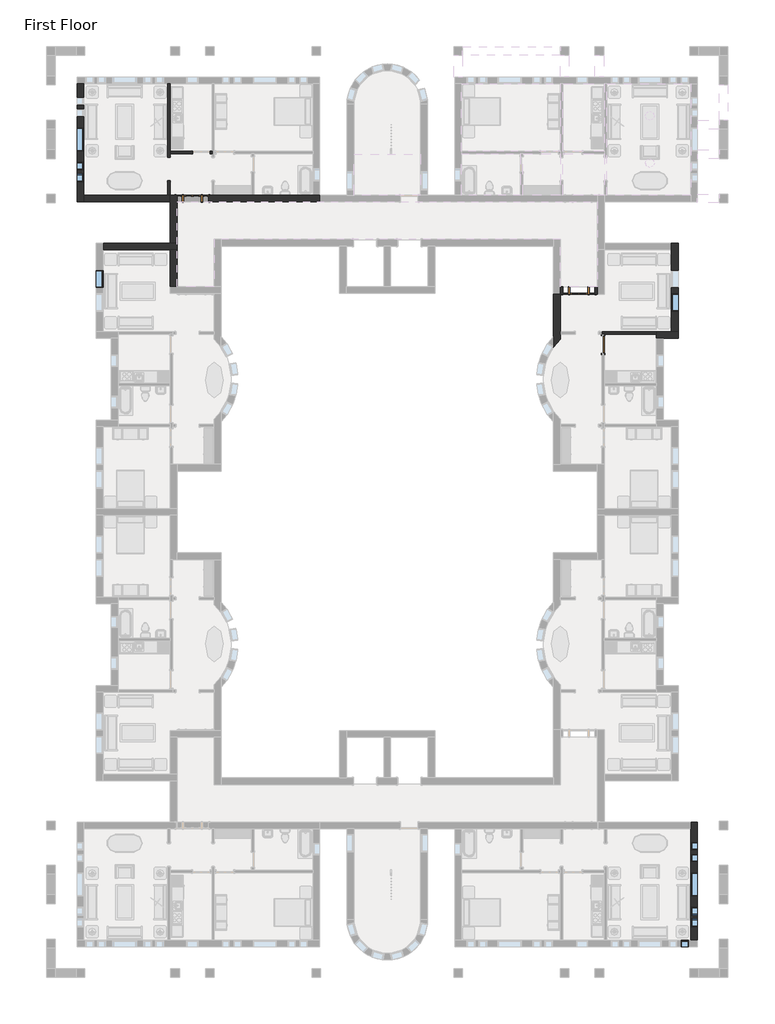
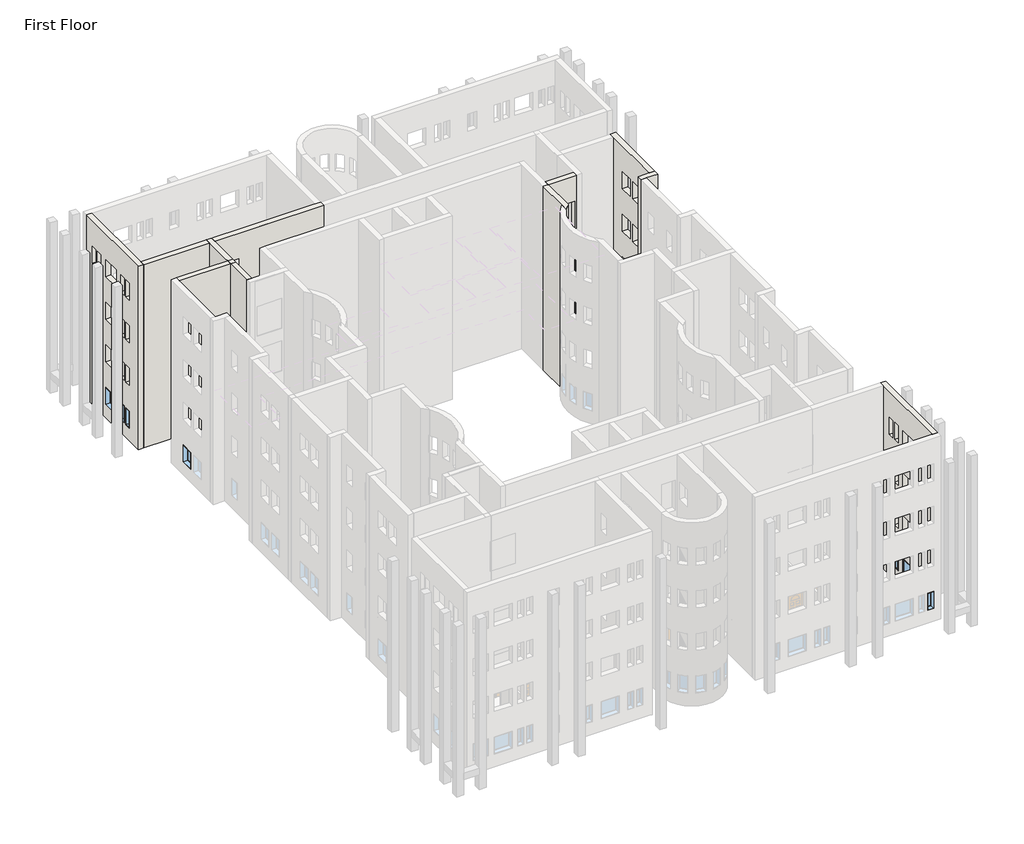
# One storey, part 12 of 21: 13 walls, 11 windows, 3 doors.
"""IFC4 building model written with IfcOpenShell, lengths in millimetres."""

from ifc_helpers import new_model, si_unit, frame, origin, origin_with_axes, place, context, project, spatial, polyline, circle_curve, outline, extrude, faceted_brep, transform, mapped, element, save
from ifc_brep_helpers import plane_surface, revolved_surface, advanced_brep
from components import door_a3eb833a, door_ffdb1193, window_da97879f, window_d61ef850, window_15c49d37, window_0e2fc6ce, window_d89bf842

model = new_model("IFC4")

# Units and contexts
model_context = context("Model", 3, world=origin())
ifc_project = project(units=[si_unit("LENGTHUNIT", "METRE", prefix="MILLI")], contexts=[model_context])

# Site, building, storey
site = spatial("IfcSite", under=ifc_project)
building = spatial("IfcBuilding", under=site)
storey = spatial("IfcBuildingStorey", under=building, Name="First Floor", Elevation=0.0)

# Doors
placement = place(None, origin())
door_shape = door_a3eb833a(model_context)
element("IfcDoor", 1, ObjectType="Single-Flush : 36\" x 84\"", at=placement, inside=storey, context=model_context, shape_type="MappedRepresentation", body=[
    mapped(door_shape, transform((-3900.4589563, -3198.3308133, 0.0), x_axis=(0.0, 1.0, 0.0), y_axis=(-1.0, 0.0, 0.0), z_axis=(0.0, 0.0, 1.0))),
])
door_2_shape = door_ffdb1193(model_context)
element("IfcDoor", 2, ObjectType="Single-Raised Panel with Sidelights : 36\" x 84\"", at=placement, inside=storey, context=model_context, shape_type="MappedRepresentation", body=[
    mapped(door_2_shape, transform((-5156.1714563, -415.4433133, 0.0), x_axis=(-1.0, 0.0, 0.0), y_axis=(0.0, -1.0, 0.0), z_axis=(0.0, 0.0, 1.0))),
])
element("IfcDoor", 3, ObjectType="Single-Raised Panel with Sidelights : 36\" x 84\"", at=placement, inside=storey, context=model_context, shape_type="MappedRepresentation", body=[
    mapped(door_2_shape, transform((-25131.6839563, 4350.2316867, 0.0), x_axis=(1.0, 0.0, 0.0), y_axis=(0.0, 1.0, 0.0), z_axis=(0.0, 0.0, 1.0))),
])

# Walls
element("IfcWall", 4, ObjectType="Exterior - Brick on Mtl. Stud", at=placement, inside=storey, context=model_context, shape_type="Brep", body=[
    faceted_brep([(-25934.9589563, -197.9558133, 0.0), (-25934.9589563, 4174.0191867, 0.0), (-25934.9589563, 4526.4441867, 0.0), (-25934.9589563, 4526.4441867, 13106.4), (-25934.9589563, 4174.0191867, 13106.4), (-25934.9589563, -197.9558133, 13106.4), (-26287.3839563, -197.9558133, 0.0), (-26287.3839563, -197.9558133, 13106.4), (-26287.3839563, 4526.4441867, 13106.4), (-26287.3839563, 4526.4441867, 0.0)], [[[0, 1, 2, 3, 4, 5]], [[6, 7, 8, 9]], [[2, 1, 0, 6, 9]], [[5, 4, 3, 8, 7]], [[3, 2, 9, 8]], [[0, 5, 7, 6]]]),
])
element("IfcWall", 5, ObjectType="Exterior - Brick on Mtl. Stud", at=placement, inside=storey, context=model_context, shape_type="SweptSolid", body=[
    extrude(outline(polyline([(0.0, -6122.9589563), (0.0, -5994.3714563), (2133.6, -5994.3714563), (2133.6, -4317.9714563), (0.0, -4317.9714563), (0.0, -4189.3839563), (13106.4, -4189.3839563), (13106.4, -6122.9589563), (0.0, -6122.9589563)]), holes=[polyline([(6096.0, -4317.9714563), (6096.0, -5994.3714563), (8229.6, -5994.3714563), (8229.6, -4317.9714563), (6096.0, -4317.9714563)]), polyline([(3048.0, -4317.9714563), (3048.0, -5994.3714563), (5181.6, -5994.3714563), (5181.6, -4317.9714563), (3048.0, -4317.9714563)]), polyline([(9144.0, -4317.9714563), (9144.0, -5994.3714563), (11277.6, -5994.3714563), (11277.6, -4317.9714563), (9144.0, -4317.9714563)])]), frame((0.0, -591.6558133, 0.0), z_axis=(0.0, 1.0, 0.0), x_axis=(0.0, 0.0, 1.0)), (0.0, 0.0, 1.0), 352.425),
])
element("IfcWall", 6, ObjectType="Exterior - Brick on Mtl. Stud", at=placement, inside=storey, context=model_context, shape_type="AdvancedBrep", body=[
    advanced_brep(
    [(-6475.3839563, -591.6558133, 0.0), (-6475.3839563, -2783.0580793, 0.0), (-6475.3839563, -3340.9526635, 0.0), (-6475.3839563, -3340.9526635, 914.4), (-6475.3839563, -3291.6644156, 914.4), (-6475.3839563, -3291.6644156, 2133.6), (-6475.3839563, -3340.9526635, 2133.6), (-6475.3839563, -3340.9526635, 3962.4), (-6475.3839563, -3291.6644156, 3962.4), (-6475.3839563, -3291.6644156, 5181.6), (-6475.3839563, -3340.9526635, 5181.6), (-6475.3839563, -3340.9526635, 7010.4), (-6475.3839563, -3291.6644156, 7010.4), (-6475.3839563, -3291.6644156, 8229.6), (-6475.3839563, -3340.9526635, 8229.6), (-6475.3839563, -3340.9526635, 10058.4), (-6475.3839563, -3291.6644156, 10058.4), (-6475.3839563, -3291.6644156, 11277.6), (-6475.3839563, -3340.9526635, 11277.6), (-6475.3839563, -3340.9526635, 13106.4), (-6475.3839563, -2783.0580793, 13106.4), (-6475.3839563, -591.6558133, 13106.4), (-6122.9589563, -2927.0589656, 0.0), (-6122.9589563, -2652.2308133, 0.0), (-6122.9589563, -2525.2308133, 0.0), (-6122.9589563, -591.6558133, 0.0), (-6122.9589563, -591.6558133, 13106.4), (-6122.9589563, -2927.0589656, 13106.4), (-6469.9143656, -3333.1638446, 11277.6), (-6469.9143656, -3333.1638446, 10058.4), (-6469.9143656, -3333.1638446, 8229.6), (-6469.9143656, -3333.1638446, 7010.4), (-6469.9143656, -3333.1638446, 5181.6), (-6469.9143656, -3333.1638446, 3962.4), (-6469.9143656, -3333.1638446, 2133.6), (-6469.9143656, -3333.1638446, 914.4), (-6453.3830671, -3304.2381051, 2133.6), (-6453.3830671, -3304.2381051, 914.4), (-6453.3830671, -3304.2381051, 11277.6), (-6453.3830671, -3304.2381051, 10058.4), (-6453.3830671, -3304.2381051, 5181.6), (-6453.3830671, -3304.2381051, 3962.4), (-6453.3830671, -3304.2381051, 8229.6), (-6453.3830671, -3304.2381051, 7010.4)],
    [
        (0, 1),
        (1, 2),
        (2, 3),
        (3, 4),
        (4, 5),
        (5, 6),
        (6, 7),
        (7, 8),
        (8, 9),
        (9, 10),
        (10, 11),
        (11, 12),
        (12, 13),
        (13, 14),
        (14, 15),
        (15, 16),
        (16, 17),
        (17, 18),
        (18, 19),
        (19, 20),
        (20, 21),
        (21, 0),
        (22, 23),
        (23, 24),
        (24, 25),
        (25, 26),
        (26, 27),
        (27, 22),
        (0, 25),
        (22, 2, circle_curve(frame((-4122.4640713, -4987.4433133, 0.0), z_axis=(0.0, 0.0, 1.0), x_axis=(0.0, 1.0, 0.0)), 2871.7875)),
        (19, 27, circle_curve(frame((-4122.4640713, -4987.4433133, 13106.4), z_axis=(0.0, 0.0, -1.0), x_axis=(0.0, 1.0, 0.0)), 2871.7875)),
        (26, 21),
        (18, 28, circle_curve(frame((-4122.4640713, -4987.4433133, 11277.6), z_axis=(0.0, 0.0, -1.0), x_axis=(0.0, 1.0, 0.0)), 2871.7875)),
        (28, 29),
        (29, 15, circle_curve(frame((-4122.4640713, -4987.4433133, 10058.4), z_axis=(0.0, 0.0, 1.0), x_axis=(0.0, 1.0, 0.0)), 2871.7875)),
        (14, 30, circle_curve(frame((-4122.4640713, -4987.4433133, 8229.6), z_axis=(0.0, 0.0, -1.0), x_axis=(0.0, 1.0, 0.0)), 2871.7875)),
        (30, 31),
        (31, 11, circle_curve(frame((-4122.4640713, -4987.4433133, 7010.4), z_axis=(0.0, 0.0, 1.0), x_axis=(0.0, 1.0, 0.0)), 2871.7875)),
        (10, 32, circle_curve(frame((-4122.4640713, -4987.4433133, 5181.6), z_axis=(0.0, 0.0, -1.0), x_axis=(0.0, 1.0, 0.0)), 2871.7875)),
        (32, 33),
        (33, 7, circle_curve(frame((-4122.4640713, -4987.4433133, 3962.4), z_axis=(0.0, 0.0, 1.0), x_axis=(0.0, 1.0, 0.0)), 2871.7875)),
        (6, 34, circle_curve(frame((-4122.4640713, -4987.4433133, 2133.6), z_axis=(0.0, 0.0, -1.0), x_axis=(0.0, 1.0, 0.0)), 2871.7875)),
        (34, 35),
        (35, 3, circle_curve(frame((-4122.4640713, -4987.4433133, 914.4), z_axis=(0.0, 0.0, 1.0), x_axis=(0.0, 1.0, 0.0)), 2871.7875)),
        (36, 37),
        (37, 35),
        (34, 36),
        (37, 4),
        (36, 5),
        (38, 39),
        (39, 29),
        (28, 38),
        (39, 16),
        (38, 17),
        (40, 41),
        (41, 33),
        (32, 40),
        (41, 8),
        (40, 9),
        (42, 43),
        (43, 31),
        (30, 42),
        (43, 12),
        (42, 13),
    ],
    [
        plane_surface(frame((-6475.3839563, -415.4433133, 0.0), z_axis=(-1.0, 0.0, 0.0), x_axis=(0.0, -1.0, 0.0))),
        plane_surface(frame((-6122.9589563, -415.4433133, 0.0), z_axis=(1.0, 0.0, 0.0), x_axis=(0.0, 1.0, 0.0))),
        plane_surface(frame((-6475.3839563, -415.4433133, 0.0), z_axis=(0.0, 0.0, -1.0), x_axis=(1.0, 0.0, 0.0))),
        plane_surface(frame((-6475.3839563, -2853.8433133, 13106.4), z_axis=(0.0, 0.0, 1.0), x_axis=(1.0, 0.0, 0.0))),
        revolved_surface(polyline([(-4122.4640713, -2115.6558133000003, 0.0), (-4122.4640713, -2115.6558133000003, 13106.4)]), (-4122.4640713, -4987.4433133, 0.0), (0.0, 0.0, -1.0)),
        plane_surface(frame((-4013.1714563, -591.6558133, 0.0), z_axis=(0.0, 1.0, 0.0), x_axis=(1.0, 0.0, 0.0))),
        plane_surface(frame((-6755.8611513, -3833.5009591, 2133.6), z_axis=(-0.8682133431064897, 0.4961910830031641, 0.0), x_axis=(0.0, 0.0, -1.0))),
        plane_surface(frame((-6755.8611513, -3833.5009591, 914.4), z_axis=(0.0, 0.0, 1.0000000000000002), x_axis=(-0.8682133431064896, 0.49619108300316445, 0.0))),
        plane_surface(frame((-6453.3830671, -3304.2381051, 914.4), z_axis=(-0.49619108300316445, -0.8682133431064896, 0.0), x_axis=(-0.8682133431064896, 0.49619108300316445, 0.0))),
        plane_surface(frame((-6453.3830671, -3304.2381051, 2133.6), z_axis=(0.0, 0.0, -1.0000000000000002), x_axis=(-0.8682133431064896, 0.49619108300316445, 0.0))),
        plane_surface(frame((-6755.8611513, -3833.5009591, 11277.6), z_axis=(-0.8682133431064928, 0.4961910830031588, 0.0), x_axis=(0.0, 0.0, -1.0))),
        plane_surface(frame((-6755.8611513, -3833.5009591, 10058.4), z_axis=(0.0, 0.0, 1.0), x_axis=(-0.868213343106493, 0.4961910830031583, 0.0))),
        plane_surface(frame((-6453.3830671, -3304.2381051, 10058.4), z_axis=(-0.4961910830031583, -0.868213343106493, 0.0), x_axis=(-0.868213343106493, 0.4961910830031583, 0.0))),
        plane_surface(frame((-6453.3830671, -3304.2381051, 11277.6), z_axis=(0.0, 0.0, -1.0), x_axis=(-0.868213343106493, 0.4961910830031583, 0.0))),
        plane_surface(frame((-6755.8611513, -3833.5009591, 5181.6), z_axis=(-0.8682133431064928, 0.4961910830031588, 0.0), x_axis=(0.0, 0.0, -1.0))),
        plane_surface(frame((-6755.8611513, -3833.5009591, 3962.4), z_axis=(0.0, 0.0, 1.0), x_axis=(-0.868213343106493, 0.4961910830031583, 0.0))),
        plane_surface(frame((-6453.3830671, -3304.2381051, 3962.4), z_axis=(-0.4961910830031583, -0.868213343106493, 0.0), x_axis=(-0.868213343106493, 0.4961910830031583, 0.0))),
        plane_surface(frame((-6453.3830671, -3304.2381051, 5181.6), z_axis=(0.0, 0.0, -1.0), x_axis=(-0.868213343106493, 0.4961910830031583, 0.0))),
        plane_surface(frame((-6755.8611513, -3833.5009591, 8229.6), z_axis=(-0.8682133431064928, 0.4961910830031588, 0.0), x_axis=(0.0, 0.0, -1.0))),
        plane_surface(frame((-6755.8611513, -3833.5009591, 7010.4), z_axis=(0.0, 0.0, 1.0), x_axis=(-0.868213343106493, 0.4961910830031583, 0.0))),
        plane_surface(frame((-6453.3830671, -3304.2381051, 7010.4), z_axis=(-0.4961910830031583, -0.868213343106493, 0.0), x_axis=(-0.868213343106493, 0.4961910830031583, 0.0))),
        plane_surface(frame((-6453.3830671, -3304.2381051, 8229.6), z_axis=(0.0, 0.0, -1.0), x_axis=(-0.868213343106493, 0.4961910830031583, 0.0))),
    ],
    [
        (0, [[1, 2, 3, 4, 5, 6, 7, 8, 9, 10, 11, 12, 13, 14, 15, 16, 17, 18, 19, 20, 21, 22]]),
        (1, [[23, 24, 25, 26, 27, 28]]),
        (2, [[-2, -1, 29, -25, -24, -23, 30]]),
        (3, [[-21, -20, 31, -27, 32]]),
        (4, [[-30, -28, -31, -19, 33, 34, 35, -15, 36, 37, 38, -11, 39, 40, 41, -7, 42, 43, 44, -3]]),
        (5, [[-22, -32, -26, -29]]),
        (6, [[45, 46, -43, 47]]),
        (7, [[48, -4, -44, -46]]),
        (8, [[-45, 49, -5, -48]]),
        (9, [[-49, -47, -42, -6]]),
        (10, [[50, 51, -34, 52]]),
        (11, [[53, -16, -35, -51]]),
        (12, [[-50, 54, -17, -53]]),
        (13, [[-54, -52, -33, -18]]),
        (14, [[55, 56, -40, 57]]),
        (15, [[58, -8, -41, -56]]),
        (16, [[-55, 59, -9, -58]]),
        (17, [[-59, -57, -39, -10]]),
        (18, [[60, 61, -37, 62]]),
        (19, [[63, -12, -38, -61]]),
        (20, [[-60, 64, -13, -63]]),
        (21, [[-64, -62, -36, -14]]),
    ],
),
])
element("IfcWall", 7, ObjectType="Exterior - Brick on Mtl. Stud", at=placement, inside=storey, context=model_context, shape_type="Brep", body=[
    faceted_brep([(-1141.3839563, -2877.6558133, 13106.4), (-1141.3839563, -2877.6558133, 0.0), (-788.9589563, -2877.6558133, 0.0), (-26.9589563, -2877.6558133, 0.0), (-26.9589563, -2877.6558133, 13106.4), (-788.9589563, -2877.6558133, 13106.4), (-1141.3839563, -2525.2308133, 0.0), (-1141.3839563, -2525.2308133, 3048.0), (-1141.3839563, -2525.2308133, 13106.4), (-379.3839563, -2525.2308133, 13106.4), (-26.9589563, -2525.2308133, 13106.4), (-26.9589563, -2525.2308133, 0.0), (-379.3839563, -2525.2308133, 0.0), (-1141.3839563, -2652.2308133, 0.0)], [[[0, 1, 2, 3, 4, 5]], [[6, 7, 8, 9, 10, 11, 12]], [[3, 2, 1, 13, 6, 12, 11]], [[0, 5, 4, 10, 9, 8]], [[0, 8, 7, 6, 13, 1]], [[4, 3, 11, 10]]]),
])
element("IfcWall", 8, ObjectType="Exterior - Brick on Mtl. Stud", at=placement, inside=storey, context=model_context, shape_type="Brep", body=[
    faceted_brep([(-26.9589563, -2525.2308133, 0.0), (-26.9589563, 2046.7691867, 0.0), (-26.9589563, 2046.7691867, 13106.4), (-26.9589563, -2525.2308133, 13106.4), (-26.9589563, -1482.2433133, 8229.6), (-26.9589563, -567.8433133, 8229.6), (-26.9589563, -567.8433133, 7010.4), (-26.9589563, -1482.2433133, 7010.4), (-26.9589563, -263.0433133, 8229.6), (-26.9589563, 651.3566867, 8229.6), (-26.9589563, 651.3566867, 7010.4), (-26.9589563, -263.0433133, 7010.4), (-26.9589563, -1482.2433133, 5181.6), (-26.9589563, -567.8433133, 5181.6), (-26.9589563, -567.8433133, 3962.4), (-26.9589563, -1482.2433133, 3962.4), (-26.9589563, -263.0433133, 5181.6), (-26.9589563, 651.3566867, 5181.6), (-26.9589563, 651.3566867, 3962.4), (-26.9589563, -263.0433133, 3962.4), (-26.9589563, -1482.2433133, 11277.6), (-26.9589563, -567.8433133, 11277.6), (-26.9589563, -567.8433133, 10058.4), (-26.9589563, -1482.2433133, 10058.4), (-26.9589563, -263.0433133, 11277.6), (-26.9589563, 651.3566867, 11277.6), (-26.9589563, 651.3566867, 10058.4), (-26.9589563, -263.0433133, 10058.4), (-26.9589563, -1482.2433133, 2133.6), (-26.9589563, -567.8433133, 2133.6), (-26.9589563, -567.8433133, 914.4), (-26.9589563, -1482.2433133, 914.4), (-26.9589563, -263.0433133, 2133.6), (-26.9589563, 651.3566867, 2133.6), (-26.9589563, 651.3566867, 914.4), (-26.9589563, -263.0433133, 914.4), (-379.3839563, -2525.2308133, 0.0), (-379.3839563, -2525.2308133, 13106.4), (-379.3839563, 1694.3441867, 13106.4), (-379.3839563, 2046.7691867, 13106.4), (-379.3839563, 2046.7691867, 0.0), (-379.3839563, 1694.3441867, 0.0), (-379.3839563, -1482.2433133, 8229.6), (-379.3839563, -1482.2433133, 7010.4), (-379.3839563, -567.8433133, 7010.4), (-379.3839563, -567.8433133, 8229.6), (-379.3839563, -263.0433133, 8229.6), (-379.3839563, -263.0433133, 7010.4), (-379.3839563, 651.3566867, 7010.4), (-379.3839563, 651.3566867, 8229.6), (-379.3839563, -1482.2433133, 5181.6), (-379.3839563, -1482.2433133, 3962.4), (-379.3839563, -567.8433133, 3962.4), (-379.3839563, -567.8433133, 5181.6), (-379.3839563, -263.0433133, 5181.6), (-379.3839563, -263.0433133, 3962.4), (-379.3839563, 651.3566867, 3962.4), (-379.3839563, 651.3566867, 5181.6), (-379.3839563, -1482.2433133, 11277.6), (-379.3839563, -1482.2433133, 10058.4), (-379.3839563, -567.8433133, 10058.4), (-379.3839563, -567.8433133, 11277.6), (-379.3839563, -263.0433133, 11277.6), (-379.3839563, -263.0433133, 10058.4), (-379.3839563, 651.3566867, 10058.4), (-379.3839563, 651.3566867, 11277.6), (-379.3839563, -1482.2433133, 2133.6), (-379.3839563, -1482.2433133, 914.4), (-379.3839563, -567.8433133, 914.4), (-379.3839563, -567.8433133, 2133.6), (-379.3839563, -263.0433133, 2133.6), (-379.3839563, -263.0433133, 914.4), (-379.3839563, 651.3566867, 914.4), (-379.3839563, 651.3566867, 2133.6)], [[[0, 1, 2, 3], [4, 5, 6, 7], [8, 9, 10, 11], [12, 13, 14, 15], [16, 17, 18, 19], [20, 21, 22, 23], [24, 25, 26, 27], [28, 29, 30, 31], [32, 33, 34, 35]], [[36, 37, 38, 39, 40, 41], [42, 43, 44, 45], [46, 47, 48, 49], [50, 51, 52, 53], [54, 55, 56, 57], [58, 59, 60, 61], [62, 63, 64, 65], [66, 67, 68, 69], [70, 71, 72, 73]], [[1, 0, 36, 41, 40]], [[3, 2, 39, 38, 37]], [[2, 1, 40, 39]], [[0, 3, 37, 36]], [[43, 42, 4, 7]], [[44, 43, 7, 6]], [[45, 44, 6, 5]], [[42, 45, 5, 4]], [[47, 46, 8, 11]], [[48, 47, 11, 10]], [[49, 48, 10, 9]], [[46, 49, 9, 8]], [[51, 50, 12, 15]], [[52, 51, 15, 14]], [[53, 52, 14, 13]], [[50, 53, 13, 12]], [[55, 54, 16, 19]], [[56, 55, 19, 18]], [[57, 56, 18, 17]], [[54, 57, 17, 16]], [[59, 58, 20, 23]], [[60, 59, 23, 22]], [[61, 60, 22, 21]], [[58, 61, 21, 20]], [[63, 62, 24, 27]], [[64, 63, 27, 26]], [[65, 64, 26, 25]], [[62, 65, 25, 24]], [[67, 66, 28, 31]], [[68, 67, 31, 30]], [[69, 68, 30, 29]], [[66, 69, 29, 28]], [[71, 70, 32, 35]], [[72, 71, 35, 34]], [[73, 72, 34, 33]], [[70, 73, 33, 32]]]),
])
element("IfcWall", 9, ObjectType="Exterior - Brick on Mtl. Stud", at=placement, inside=storey, context=model_context, shape_type="Brep", body=[
    faceted_brep([(-31099.0964563, 10270.0191867, 0.0), (-31099.0964563, 4361.3441867, 0.0), (-31099.0964563, 4174.0191867, 0.0), (-31099.0964563, 4174.0191867, 13106.4), (-31099.0964563, 10270.0191867, 13106.4), (-31099.0964563, 5823.4316867, 8229.6), (-31099.0964563, 5823.4316867, 7010.4), (-31099.0964563, 6229.8316867, 7010.4), (-31099.0964563, 6229.8316867, 8229.6), (-31099.0964563, 5213.8316867, 8229.6), (-31099.0964563, 5213.8316867, 7010.4), (-31099.0964563, 5620.2316867, 7010.4), (-31099.0964563, 5620.2316867, 8229.6), (-31099.0964563, 8973.0316867, 8229.6), (-31099.0964563, 8566.6316867, 8229.6), (-31099.0964563, 8566.6316867, 7010.4), (-31099.0964563, 8973.0316867, 7010.4), (-31099.0964563, 9582.6316867, 8229.6), (-31099.0964563, 9176.2316867, 8229.6), (-31099.0964563, 9176.2316867, 7010.4), (-31099.0964563, 9582.6316867, 7010.4), (-31099.0964563, 8007.8316867, 8229.6), (-31099.0964563, 6788.6316867, 8229.6), (-31099.0964563, 6788.6316867, 7010.4), (-31099.0964563, 8007.8316867, 7010.4), (-31099.0964563, 5823.4316867, 5181.6), (-31099.0964563, 5823.4316867, 3962.4), (-31099.0964563, 6229.8316867, 3962.4), (-31099.0964563, 6229.8316867, 5181.6), (-31099.0964563, 5213.8316867, 5181.6), (-31099.0964563, 5213.8316867, 3962.4), (-31099.0964563, 5620.2316867, 3962.4), (-31099.0964563, 5620.2316867, 5181.6), (-31099.0964563, 8973.0316867, 5181.6), (-31099.0964563, 8566.6316867, 5181.6), (-31099.0964563, 8566.6316867, 3962.4), (-31099.0964563, 8973.0316867, 3962.4), (-31099.0964563, 9582.6316867, 5181.6), (-31099.0964563, 9176.2316867, 5181.6), (-31099.0964563, 9176.2316867, 3962.4), (-31099.0964563, 9582.6316867, 3962.4), (-31099.0964563, 8007.8316867, 5181.6), (-31099.0964563, 6788.6316867, 5181.6), (-31099.0964563, 6788.6316867, 3962.4), (-31099.0964563, 8007.8316867, 3962.4), (-31099.0964563, 5823.4316867, 11277.6), (-31099.0964563, 5823.4316867, 10058.4), (-31099.0964563, 6229.8316867, 10058.4), (-31099.0964563, 6229.8316867, 11277.6), (-31099.0964563, 5213.8316867, 11277.6), (-31099.0964563, 5213.8316867, 10058.4), (-31099.0964563, 5620.2316867, 10058.4), (-31099.0964563, 5620.2316867, 11277.6), (-31099.0964563, 8973.0316867, 11277.6), (-31099.0964563, 8566.6316867, 11277.6), (-31099.0964563, 8566.6316867, 10058.4), (-31099.0964563, 8973.0316867, 10058.4), (-31099.0964563, 9582.6316867, 11277.6), (-31099.0964563, 9176.2316867, 11277.6), (-31099.0964563, 9176.2316867, 10058.4), (-31099.0964563, 9582.6316867, 10058.4), (-31099.0964563, 8007.8316867, 11277.6), (-31099.0964563, 6788.6316867, 11277.6), (-31099.0964563, 6788.6316867, 10058.4), (-31099.0964563, 8007.8316867, 10058.4), (-31099.0964563, 5823.4316867, 2133.6), (-31099.0964563, 5823.4316867, 914.4), (-31099.0964563, 6229.8316867, 914.4), (-31099.0964563, 6229.8316867, 2133.6), (-31099.0964563, 5213.8316867, 2133.6), (-31099.0964563, 5213.8316867, 914.4), (-31099.0964563, 5620.2316867, 914.4), (-31099.0964563, 5620.2316867, 2133.6), (-31099.0964563, 8973.0316867, 2133.6), (-31099.0964563, 8566.6316867, 2133.6), (-31099.0964563, 8566.6316867, 914.4), (-31099.0964563, 8973.0316867, 914.4), (-31099.0964563, 9582.6316867, 2133.6), (-31099.0964563, 9176.2316867, 2133.6), (-31099.0964563, 9176.2316867, 914.4), (-31099.0964563, 9582.6316867, 914.4), (-31099.0964563, 8007.8316867, 2133.6), (-31099.0964563, 6788.6316867, 2133.6), (-31099.0964563, 6788.6316867, 914.4), (-31099.0964563, 8007.8316867, 914.4), (-30746.6714563, 10270.0191867, 0.0), (-30746.6714563, 10270.0191867, 13106.4), (-30746.6714563, 4526.4441867, 13106.4), (-30746.6714563, 4174.0191867, 13106.4), (-30746.6714563, 4174.0191867, 0.0), (-30746.6714563, 4361.3441867, 0.0), (-30746.6714563, 4526.4441867, 0.0), (-30746.6714563, 5823.4316867, 8229.6), (-30746.6714563, 6229.8316867, 8229.6), (-30746.6714563, 6229.8316867, 7010.4), (-30746.6714563, 5823.4316867, 7010.4), (-30746.6714563, 5213.8316867, 8229.6), (-30746.6714563, 5620.2316867, 8229.6), (-30746.6714563, 5620.2316867, 7010.4), (-30746.6714563, 5213.8316867, 7010.4), (-30746.6714563, 8973.0316867, 8229.6), (-30746.6714563, 8973.0316867, 7010.4), (-30746.6714563, 8566.6316867, 7010.4), (-30746.6714563, 8566.6316867, 8229.6), (-30746.6714563, 9582.6316867, 8229.6), (-30746.6714563, 9582.6316867, 7010.4), (-30746.6714563, 9176.2316867, 7010.4), (-30746.6714563, 9176.2316867, 8229.6), (-30746.6714563, 8007.8316867, 8229.6), (-30746.6714563, 8007.8316867, 7010.4), (-30746.6714563, 6788.6316867, 7010.4), (-30746.6714563, 6788.6316867, 8229.6), (-30746.6714563, 5823.4316867, 5181.6), (-30746.6714563, 6229.8316867, 5181.6), (-30746.6714563, 6229.8316867, 3962.4), (-30746.6714563, 5823.4316867, 3962.4), (-30746.6714563, 5213.8316867, 5181.6), (-30746.6714563, 5620.2316867, 5181.6), (-30746.6714563, 5620.2316867, 3962.4), (-30746.6714563, 5213.8316867, 3962.4), (-30746.6714563, 8973.0316867, 5181.6), (-30746.6714563, 8973.0316867, 3962.4), (-30746.6714563, 8566.6316867, 3962.4), (-30746.6714563, 8566.6316867, 5181.6), (-30746.6714563, 9582.6316867, 5181.6), (-30746.6714563, 9582.6316867, 3962.4), (-30746.6714563, 9176.2316867, 3962.4), (-30746.6714563, 9176.2316867, 5181.6), (-30746.6714563, 8007.8316867, 5181.6), (-30746.6714563, 8007.8316867, 3962.4), (-30746.6714563, 6788.6316867, 3962.4), (-30746.6714563, 6788.6316867, 5181.6), (-30746.6714563, 5823.4316867, 11277.6), (-30746.6714563, 6229.8316867, 11277.6), (-30746.6714563, 6229.8316867, 10058.4), (-30746.6714563, 5823.4316867, 10058.4), (-30746.6714563, 5213.8316867, 11277.6), (-30746.6714563, 5620.2316867, 11277.6), (-30746.6714563, 5620.2316867, 10058.4), (-30746.6714563, 5213.8316867, 10058.4), (-30746.6714563, 8973.0316867, 11277.6), (-30746.6714563, 8973.0316867, 10058.4), (-30746.6714563, 8566.6316867, 10058.4), (-30746.6714563, 8566.6316867, 11277.6), (-30746.6714563, 9582.6316867, 11277.6), (-30746.6714563, 9582.6316867, 10058.4), (-30746.6714563, 9176.2316867, 10058.4), (-30746.6714563, 9176.2316867, 11277.6), (-30746.6714563, 8007.8316867, 11277.6), (-30746.6714563, 8007.8316867, 10058.4), (-30746.6714563, 6788.6316867, 10058.4), (-30746.6714563, 6788.6316867, 11277.6), (-30746.6714563, 5823.4316867, 2133.6), (-30746.6714563, 6229.8316867, 2133.6), (-30746.6714563, 6229.8316867, 914.4), (-30746.6714563, 5823.4316867, 914.4), (-30746.6714563, 5213.8316867, 2133.6), (-30746.6714563, 5620.2316867, 2133.6), (-30746.6714563, 5620.2316867, 914.4), (-30746.6714563, 5213.8316867, 914.4), (-30746.6714563, 8973.0316867, 2133.6), (-30746.6714563, 8973.0316867, 914.4), (-30746.6714563, 8566.6316867, 914.4), (-30746.6714563, 8566.6316867, 2133.6), (-30746.6714563, 9582.6316867, 2133.6), (-30746.6714563, 9582.6316867, 914.4), (-30746.6714563, 9176.2316867, 914.4), (-30746.6714563, 9176.2316867, 2133.6), (-30746.6714563, 8007.8316867, 2133.6), (-30746.6714563, 8007.8316867, 914.4), (-30746.6714563, 6788.6316867, 914.4), (-30746.6714563, 6788.6316867, 2133.6), (-30911.7714563, 4174.0191867, 0.0), (-30911.7714563, 10270.0191867, 0.0), (-30911.7714563, 4361.3441867, 0.0)], [[[0, 1, 2, 3, 4], [5, 6, 7, 8], [9, 10, 11, 12], [13, 14, 15, 16], [17, 18, 19, 20], [21, 22, 23, 24], [25, 26, 27, 28], [29, 30, 31, 32], [33, 34, 35, 36], [37, 38, 39, 40], [41, 42, 43, 44], [45, 46, 47, 48], [49, 50, 51, 52], [53, 54, 55, 56], [57, 58, 59, 60], [61, 62, 63, 64], [65, 66, 67, 68], [69, 70, 71, 72], [73, 74, 75, 76], [77, 78, 79, 80], [81, 82, 83, 84]], [[85, 86, 87, 88, 89, 90, 91], [92, 93, 94, 95], [96, 97, 98, 99], [100, 101, 102, 103], [104, 105, 106, 107], [108, 109, 110, 111], [112, 113, 114, 115], [116, 117, 118, 119], [120, 121, 122, 123], [124, 125, 126, 127], [128, 129, 130, 131], [132, 133, 134, 135], [136, 137, 138, 139], [140, 141, 142, 143], [144, 145, 146, 147], [148, 149, 150, 151], [152, 153, 154, 155], [156, 157, 158, 159], [160, 161, 162, 163], [164, 165, 166, 167], [168, 169, 170, 171]], [[4, 3, 88, 87, 86]], [[3, 2, 172, 89, 88]], [[0, 4, 86, 85, 173]], [[90, 89, 172, 174]], [[1, 0, 173, 174]], [[2, 1, 174, 172]], [[173, 85, 91, 90, 174]], [[6, 5, 92, 95]], [[7, 6, 95, 94]], [[8, 7, 94, 93]], [[5, 8, 93, 92]], [[10, 9, 96, 99]], [[11, 10, 99, 98]], [[12, 11, 98, 97]], [[9, 12, 97, 96]], [[101, 100, 13, 16]], [[102, 101, 16, 15]], [[103, 102, 15, 14]], [[100, 103, 14, 13]], [[105, 104, 17, 20]], [[106, 105, 20, 19]], [[107, 106, 19, 18]], [[104, 107, 18, 17]], [[109, 108, 21, 24]], [[110, 109, 24, 23]], [[111, 110, 23, 22]], [[108, 111, 22, 21]], [[26, 25, 112, 115]], [[27, 26, 115, 114]], [[28, 27, 114, 113]], [[25, 28, 113, 112]], [[30, 29, 116, 119]], [[31, 30, 119, 118]], [[32, 31, 118, 117]], [[29, 32, 117, 116]], [[121, 120, 33, 36]], [[122, 121, 36, 35]], [[123, 122, 35, 34]], [[120, 123, 34, 33]], [[125, 124, 37, 40]], [[126, 125, 40, 39]], [[127, 126, 39, 38]], [[124, 127, 38, 37]], [[129, 128, 41, 44]], [[130, 129, 44, 43]], [[131, 130, 43, 42]], [[128, 131, 42, 41]], [[46, 45, 132, 135]], [[47, 46, 135, 134]], [[48, 47, 134, 133]], [[45, 48, 133, 132]], [[50, 49, 136, 139]], [[51, 50, 139, 138]], [[52, 51, 138, 137]], [[49, 52, 137, 136]], [[141, 140, 53, 56]], [[142, 141, 56, 55]], [[143, 142, 55, 54]], [[140, 143, 54, 53]], [[145, 144, 57, 60]], [[146, 145, 60, 59]], [[147, 146, 59, 58]], [[144, 147, 58, 57]], [[149, 148, 61, 64]], [[150, 149, 64, 63]], [[151, 150, 63, 62]], [[148, 151, 62, 61]], [[66, 65, 152, 155]], [[67, 66, 155, 154]], [[68, 67, 154, 153]], [[65, 68, 153, 152]], [[70, 69, 156, 159]], [[71, 70, 159, 158]], [[72, 71, 158, 157]], [[69, 72, 157, 156]], [[161, 160, 73, 76]], [[162, 161, 76, 75]], [[163, 162, 75, 74]], [[160, 163, 74, 73]], [[165, 164, 77, 80]], [[166, 165, 80, 79]], [[167, 166, 79, 78]], [[164, 167, 78, 77]], [[169, 168, 81, 84]], [[170, 169, 84, 83]], [[171, 170, 83, 82]], [[168, 171, 82, 81]]]),
])
element("IfcWall", 10, ObjectType="Exterior - Brick on Mtl. Stud", at=placement, inside=storey, context=model_context, shape_type="Brep", body=[
    faceted_brep([(-24293.4839563, 4174.0191867, 2133.6), (-24293.4839563, 4174.0191867, 0.0), (-18554.6714563, 4174.0191867, 0.0), (-18554.6714563, 4174.0191867, 13106.4), (-30746.6714563, 4174.0191867, 13106.4), (-30746.6714563, 4174.0191867, 0.0), (-25969.8839563, 4174.0191867, 0.0), (-25969.8839563, 4174.0191867, 2133.6), (-25969.8839563, 4174.0191867, 6096.0), (-25969.8839563, 4174.0191867, 8229.6), (-24293.4839563, 4174.0191867, 8229.6), (-24293.4839563, 4174.0191867, 6096.0), (-25969.8839563, 4174.0191867, 3048.0), (-25969.8839563, 4174.0191867, 5181.6), (-24293.4839563, 4174.0191867, 5181.6), (-24293.4839563, 4174.0191867, 3048.0), (-25969.8839563, 4174.0191867, 9144.0), (-25969.8839563, 4174.0191867, 11277.6), (-24293.4839563, 4174.0191867, 11277.6), (-24293.4839563, 4174.0191867, 9144.0), (-18554.6714563, 4526.4441867, 0.0), (-18907.0964563, 4526.4441867, 0.0), (-21955.0964563, 4526.4441867, 0.0), (-22082.0964563, 4526.4441867, 0.0), (-24001.3839563, 4526.4441867, 0.0), (-24128.3839563, 4526.4441867, 0.0), (-24293.4839563, 4526.4441867, 0.0), (-24293.4839563, 4526.4441867, 2133.6), (-25969.8839563, 4526.4441867, 2133.6), (-25969.8839563, 4526.4441867, 0.0), (-26287.3839563, 4526.4441867, 0.0), (-26414.3839563, 4526.4441867, 0.0), (-30746.6714563, 4526.4441867, 0.0), (-30746.6714563, 4526.4441867, 13106.4), (-18907.0964563, 4526.4441867, 13106.4), (-18554.6714563, 4526.4441867, 13106.4), (-25969.8839563, 4526.4441867, 6096.0), (-24293.4839563, 4526.4441867, 6096.0), (-24293.4839563, 4526.4441867, 8229.6), (-25969.8839563, 4526.4441867, 8229.6), (-25969.8839563, 4526.4441867, 3048.0), (-24293.4839563, 4526.4441867, 3048.0), (-24293.4839563, 4526.4441867, 5181.6), (-25969.8839563, 4526.4441867, 5181.6), (-25969.8839563, 4526.4441867, 9144.0), (-24293.4839563, 4526.4441867, 9144.0), (-24293.4839563, 4526.4441867, 11277.6), (-25969.8839563, 4526.4441867, 11277.6)], [[[0, 1, 2, 3, 4, 5, 6, 7], [8, 9, 10, 11], [12, 13, 14, 15], [16, 17, 18, 19]], [[20, 21, 22, 23, 24, 25, 26, 27, 28, 29, 30, 31, 32, 33, 34, 35], [36, 37, 38, 39], [40, 41, 42, 43], [44, 45, 46, 47]], [[2, 1, 26, 25, 24, 23, 22, 21, 20]], [[6, 5, 32, 31, 30, 29]], [[4, 3, 35, 34, 33]], [[3, 2, 20, 35]], [[5, 4, 33, 32]], [[27, 26, 1, 0]], [[28, 27, 0, 7]], [[29, 28, 7, 6]], [[37, 36, 8, 11]], [[38, 37, 11, 10]], [[39, 38, 10, 9]], [[36, 39, 9, 8]], [[41, 40, 12, 15]], [[42, 41, 15, 14]], [[43, 42, 14, 13]], [[40, 43, 13, 12]], [[45, 44, 16, 19]], [[46, 45, 19, 18]], [[47, 46, 18, 17]], [[44, 47, 17, 16]]]),
])
element("IfcWall", 11, ObjectType="Exterior - Brick on Mtl. Stud", at=placement, inside=storey, context=model_context, shape_type="Brep", body=[
    faceted_brep([(-29744.9589563, 1694.3441867, 0.0), (-26287.3839563, 1694.3441867, 0.0), (-25934.9589563, 1694.3441867, 0.0), (-25934.9589563, 1694.3441867, 13106.4), (-26287.3839563, 1694.3441867, 13106.4), (-29744.9589563, 1694.3441867, 13106.4), (-29744.9589563, 2046.7691867, 0.0), (-29744.9589563, 2046.7691867, 13106.4), (-25934.9589563, 2046.7691867, 13106.4), (-25934.9589563, 2046.7691867, 0.0)], [[[0, 1, 2, 3, 4, 5]], [[6, 7, 8, 9]], [[2, 1, 0, 6, 9]], [[5, 4, 3, 8, 7]], [[3, 2, 9, 8]], [[0, 5, 7, 6]]]),
])
element("IfcWall", 12, ObjectType="Exterior - Brick on Mtl. Stud", at=placement, inside=storey, context=model_context, shape_type="SweptSolid", body=[
    extrude(outline(polyline([(-26287.3839563, -197.9558133), (-26287.3839563, 1694.3441867), (-25934.9589563, 1694.3441867), (-25934.9589563, -197.9558133), (-26287.3839563, -197.9558133)])), origin_with_axes(), (0.0, 0.0, 1.0), 13106.4),
])
element("IfcWall", 13, ObjectType="Exterior - Brick on Mtl. Stud", at=placement, inside=storey, context=model_context, shape_type="Brep", body=[
    faceted_brep([(974.7535437, -33960.9058133, 0.0), (974.7535437, -28052.2308133, 0.0), (974.7535437, -27864.9058133, 0.0), (974.7535437, -27864.9058133, 13106.4), (974.7535437, -33960.9058133, 13106.4), (974.7535437, -29514.3183133, 8229.6), (974.7535437, -29514.3183133, 7010.4), (974.7535437, -29920.7183133, 7010.4), (974.7535437, -29920.7183133, 8229.6), (974.7535437, -28904.7183133, 8229.6), (974.7535437, -28904.7183133, 7010.4), (974.7535437, -29311.1183133, 7010.4), (974.7535437, -29311.1183133, 8229.6), (974.7535437, -32663.9183133, 8229.6), (974.7535437, -32257.5183133, 8229.6), (974.7535437, -32257.5183133, 7010.4), (974.7535437, -32663.9183133, 7010.4), (974.7535437, -33273.5183133, 8229.6), (974.7535437, -32867.1183133, 8229.6), (974.7535437, -32867.1183133, 7010.4), (974.7535437, -33273.5183133, 7010.4), (974.7535437, -31698.7183133, 8229.6), (974.7535437, -30479.5183133, 8229.6), (974.7535437, -30479.5183133, 7010.4), (974.7535437, -31698.7183133, 7010.4), (974.7535437, -29514.3183133, 5181.6), (974.7535437, -29514.3183133, 3962.4), (974.7535437, -29920.7183133, 3962.4), (974.7535437, -29920.7183133, 5181.6), (974.7535437, -28904.7183133, 5181.6), (974.7535437, -28904.7183133, 3962.4), (974.7535437, -29311.1183133, 3962.4), (974.7535437, -29311.1183133, 5181.6), (974.7535437, -32663.9183133, 5181.6), (974.7535437, -32257.5183133, 5181.6), (974.7535437, -32257.5183133, 3962.4), (974.7535437, -32663.9183133, 3962.4), (974.7535437, -33273.5183133, 5181.6), (974.7535437, -32867.1183133, 5181.6), (974.7535437, -32867.1183133, 3962.4), (974.7535437, -33273.5183133, 3962.4), (974.7535437, -31698.7183133, 5181.6), (974.7535437, -30479.5183133, 5181.6), (974.7535437, -30479.5183133, 3962.4), (974.7535437, -31698.7183133, 3962.4), (974.7535437, -29514.3183133, 11277.6), (974.7535437, -29514.3183133, 10058.4), (974.7535437, -29920.7183133, 10058.4), (974.7535437, -29920.7183133, 11277.6), (974.7535437, -28904.7183133, 11277.6), (974.7535437, -28904.7183133, 10058.4), (974.7535437, -29311.1183133, 10058.4), (974.7535437, -29311.1183133, 11277.6), (974.7535437, -32663.9183133, 11277.6), (974.7535437, -32257.5183133, 11277.6), (974.7535437, -32257.5183133, 10058.4), (974.7535437, -32663.9183133, 10058.4), (974.7535437, -33273.5183133, 11277.6), (974.7535437, -32867.1183133, 11277.6), (974.7535437, -32867.1183133, 10058.4), (974.7535437, -33273.5183133, 10058.4), (974.7535437, -31698.7183133, 11277.6), (974.7535437, -30479.5183133, 11277.6), (974.7535437, -30479.5183133, 10058.4), (974.7535437, -31698.7183133, 10058.4), (974.7535437, -29514.3183133, 2133.6), (974.7535437, -29514.3183133, 914.4), (974.7535437, -29920.7183133, 914.4), (974.7535437, -29920.7183133, 2133.6), (974.7535437, -28904.7183133, 2133.6), (974.7535437, -28904.7183133, 914.4), (974.7535437, -29311.1183133, 914.4), (974.7535437, -29311.1183133, 2133.6), (974.7535437, -32663.9183133, 2133.6), (974.7535437, -32257.5183133, 2133.6), (974.7535437, -32257.5183133, 914.4), (974.7535437, -32663.9183133, 914.4), (974.7535437, -33273.5183133, 2133.6), (974.7535437, -32867.1183133, 2133.6), (974.7535437, -32867.1183133, 914.4), (974.7535437, -33273.5183133, 914.4), (974.7535437, -31698.7183133, 2133.6), (974.7535437, -30479.5183133, 2133.6), (974.7535437, -30479.5183133, 914.4), (974.7535437, -31698.7183133, 914.4), (622.3285437, -33960.9058133, 0.0), (622.3285437, -33960.9058133, 13106.4), (622.3285437, -28217.3308133, 13106.4), (622.3285437, -27864.9058133, 13106.4), (622.3285437, -27864.9058133, 0.0), (622.3285437, -28052.2308133, 0.0), (622.3285437, -28217.3308133, 0.0), (622.3285437, -29514.3183133, 8229.6), (622.3285437, -29920.7183133, 8229.6), (622.3285437, -29920.7183133, 7010.4), (622.3285437, -29514.3183133, 7010.4), (622.3285437, -28904.7183133, 8229.6), (622.3285437, -29311.1183133, 8229.6), (622.3285437, -29311.1183133, 7010.4), (622.3285437, -28904.7183133, 7010.4), (622.3285437, -32663.9183133, 8229.6), (622.3285437, -32663.9183133, 7010.4), (622.3285437, -32257.5183133, 7010.4), (622.3285437, -32257.5183133, 8229.6), (622.3285437, -33273.5183133, 8229.6), (622.3285437, -33273.5183133, 7010.4), (622.3285437, -32867.1183133, 7010.4), (622.3285437, -32867.1183133, 8229.6), (622.3285437, -31698.7183133, 8229.6), (622.3285437, -31698.7183133, 7010.4), (622.3285437, -30479.5183133, 7010.4), (622.3285437, -30479.5183133, 8229.6), (622.3285437, -29514.3183133, 5181.6), (622.3285437, -29920.7183133, 5181.6), (622.3285437, -29920.7183133, 3962.4), (622.3285437, -29514.3183133, 3962.4), (622.3285437, -28904.7183133, 5181.6), (622.3285437, -29311.1183133, 5181.6), (622.3285437, -29311.1183133, 3962.4), (622.3285437, -28904.7183133, 3962.4), (622.3285437, -32663.9183133, 5181.6), (622.3285437, -32663.9183133, 3962.4), (622.3285437, -32257.5183133, 3962.4), (622.3285437, -32257.5183133, 5181.6), (622.3285437, -33273.5183133, 5181.6), (622.3285437, -33273.5183133, 3962.4), (622.3285437, -32867.1183133, 3962.4), (622.3285437, -32867.1183133, 5181.6), (622.3285437, -31698.7183133, 5181.6), (622.3285437, -31698.7183133, 3962.4), (622.3285437, -30479.5183133, 3962.4), (622.3285437, -30479.5183133, 5181.6), (622.3285437, -29514.3183133, 11277.6), (622.3285437, -29920.7183133, 11277.6), (622.3285437, -29920.7183133, 10058.4), (622.3285437, -29514.3183133, 10058.4), (622.3285437, -28904.7183133, 11277.6), (622.3285437, -29311.1183133, 11277.6), (622.3285437, -29311.1183133, 10058.4), (622.3285437, -28904.7183133, 10058.4), (622.3285437, -32663.9183133, 11277.6), (622.3285437, -32663.9183133, 10058.4), (622.3285437, -32257.5183133, 10058.4), (622.3285437, -32257.5183133, 11277.6), (622.3285437, -33273.5183133, 11277.6), (622.3285437, -33273.5183133, 10058.4), (622.3285437, -32867.1183133, 10058.4), (622.3285437, -32867.1183133, 11277.6), (622.3285437, -31698.7183133, 11277.6), (622.3285437, -31698.7183133, 10058.4), (622.3285437, -30479.5183133, 10058.4), (622.3285437, -30479.5183133, 11277.6), (622.3285437, -29514.3183133, 2133.6), (622.3285437, -29920.7183133, 2133.6), (622.3285437, -29920.7183133, 914.4), (622.3285437, -29514.3183133, 914.4), (622.3285437, -28904.7183133, 2133.6), (622.3285437, -29311.1183133, 2133.6), (622.3285437, -29311.1183133, 914.4), (622.3285437, -28904.7183133, 914.4), (622.3285437, -32663.9183133, 2133.6), (622.3285437, -32663.9183133, 914.4), (622.3285437, -32257.5183133, 914.4), (622.3285437, -32257.5183133, 2133.6), (622.3285437, -33273.5183133, 2133.6), (622.3285437, -33273.5183133, 914.4), (622.3285437, -32867.1183133, 914.4), (622.3285437, -32867.1183133, 2133.6), (622.3285437, -31698.7183133, 2133.6), (622.3285437, -31698.7183133, 914.4), (622.3285437, -30479.5183133, 914.4), (622.3285437, -30479.5183133, 2133.6), (787.4285437, -27864.9058133, 0.0), (787.4285437, -33960.9058133, 0.0), (787.4285437, -28052.2308133, 0.0)], [[[0, 1, 2, 3, 4], [5, 6, 7, 8], [9, 10, 11, 12], [13, 14, 15, 16], [17, 18, 19, 20], [21, 22, 23, 24], [25, 26, 27, 28], [29, 30, 31, 32], [33, 34, 35, 36], [37, 38, 39, 40], [41, 42, 43, 44], [45, 46, 47, 48], [49, 50, 51, 52], [53, 54, 55, 56], [57, 58, 59, 60], [61, 62, 63, 64], [65, 66, 67, 68], [69, 70, 71, 72], [73, 74, 75, 76], [77, 78, 79, 80], [81, 82, 83, 84]], [[85, 86, 87, 88, 89, 90, 91], [92, 93, 94, 95], [96, 97, 98, 99], [100, 101, 102, 103], [104, 105, 106, 107], [108, 109, 110, 111], [112, 113, 114, 115], [116, 117, 118, 119], [120, 121, 122, 123], [124, 125, 126, 127], [128, 129, 130, 131], [132, 133, 134, 135], [136, 137, 138, 139], [140, 141, 142, 143], [144, 145, 146, 147], [148, 149, 150, 151], [152, 153, 154, 155], [156, 157, 158, 159], [160, 161, 162, 163], [164, 165, 166, 167], [168, 169, 170, 171]], [[4, 3, 88, 87, 86]], [[3, 2, 172, 89, 88]], [[0, 4, 86, 85, 173]], [[90, 89, 172, 174]], [[1, 0, 173, 174]], [[2, 1, 174, 172]], [[173, 85, 91, 90, 174]], [[6, 5, 92, 95]], [[7, 6, 95, 94]], [[8, 7, 94, 93]], [[5, 8, 93, 92]], [[10, 9, 96, 99]], [[11, 10, 99, 98]], [[12, 11, 98, 97]], [[9, 12, 97, 96]], [[101, 100, 13, 16]], [[102, 101, 16, 15]], [[103, 102, 15, 14]], [[100, 103, 14, 13]], [[105, 104, 17, 20]], [[106, 105, 20, 19]], [[107, 106, 19, 18]], [[104, 107, 18, 17]], [[109, 108, 21, 24]], [[110, 109, 24, 23]], [[111, 110, 23, 22]], [[108, 111, 22, 21]], [[26, 25, 112, 115]], [[27, 26, 115, 114]], [[28, 27, 114, 113]], [[25, 28, 113, 112]], [[30, 29, 116, 119]], [[31, 30, 119, 118]], [[32, 31, 118, 117]], [[29, 32, 117, 116]], [[121, 120, 33, 36]], [[122, 121, 36, 35]], [[123, 122, 35, 34]], [[120, 123, 34, 33]], [[125, 124, 37, 40]], [[126, 125, 40, 39]], [[127, 126, 39, 38]], [[124, 127, 38, 37]], [[129, 128, 41, 44]], [[130, 129, 44, 43]], [[131, 130, 43, 42]], [[128, 131, 42, 41]], [[46, 45, 132, 135]], [[47, 46, 135, 134]], [[48, 47, 134, 133]], [[45, 48, 133, 132]], [[50, 49, 136, 139]], [[51, 50, 139, 138]], [[52, 51, 138, 137]], [[49, 52, 137, 136]], [[141, 140, 53, 56]], [[142, 141, 56, 55]], [[143, 142, 55, 54]], [[140, 143, 54, 53]], [[145, 144, 57, 60]], [[146, 145, 60, 59]], [[147, 146, 59, 58]], [[144, 147, 58, 57]], [[149, 148, 61, 64]], [[150, 149, 64, 63]], [[151, 150, 63, 62]], [[148, 151, 62, 61]], [[66, 65, 152, 155]], [[67, 66, 155, 154]], [[68, 67, 154, 153]], [[65, 68, 153, 152]], [[70, 69, 156, 159]], [[71, 70, 159, 158]], [[72, 71, 158, 157]], [[69, 72, 157, 156]], [[161, 160, 73, 76]], [[162, 161, 76, 75]], [[163, 162, 75, 74]], [[160, 163, 74, 73]], [[165, 164, 77, 80]], [[166, 165, 80, 79]], [[167, 166, 79, 78]], [[164, 167, 78, 77]], [[169, 168, 81, 84]], [[170, 169, 84, 83]], [[171, 170, 83, 82]], [[168, 171, 82, 81]]]),
])
element("IfcWall", 14, ObjectType="Interior - 5\" Partition (2-hr)", at=placement, inside=storey, context=model_context, shape_type="Brep", body=[
    faceted_brep([(-1141.3839563, -2525.2308133, 0.0), (-3963.9589563, -2525.2308133, 0.0), (-3963.9589563, -2525.2308133, 3048.0), (-1141.3839563, -2525.2308133, 3048.0), (-1141.3839563, -2652.2308133, 0.0), (-1141.3839563, -2652.2308133, 3048.0), (-3836.9589563, -2652.2308133, 3048.0), (-3963.9589563, -2652.2308133, 3048.0), (-3963.9589563, -2652.2308133, 0.0), (-3836.9589563, -2652.2308133, 0.0)], [[[0, 1, 2, 3]], [[4, 5, 6, 7, 8, 9]], [[1, 0, 4, 9, 8]], [[3, 2, 7, 6, 5]], [[2, 1, 8, 7]], [[0, 3, 5, 4]]]),
])
element("IfcWall", 15, ObjectType="Interior - 5\" Partition (2-hr)", at=placement, inside=storey, context=model_context, shape_type="Brep", body=[
    faceted_brep([(-26414.3839563, 10270.0191867, 0.0), (-26414.3839563, 6483.8316867, 0.0), (-26414.3839563, 6483.8316867, 2133.6), (-26414.3839563, 5264.6316867, 2133.6), (-26414.3839563, 5264.6316867, 0.0), (-26414.3839563, 4526.4441867, 0.0), (-26414.3839563, 4526.4441867, 3048.0), (-26414.3839563, 10270.0191867, 3048.0), (-26287.3839563, 6483.8316867, 2133.6), (-26287.3839563, 6483.8316867, 0.0), (-26287.3839563, 6660.0441867, 0.0), (-26287.3839563, 6787.0441867, 0.0), (-26287.3839563, 10270.0191867, 0.0), (-26287.3839563, 10270.0191867, 3048.0), (-26287.3839563, 6787.0441867, 3048.0), (-26287.3839563, 6660.0441867, 3048.0), (-26287.3839563, 4526.4441867, 3048.0), (-26287.3839563, 4526.4441867, 0.0), (-26287.3839563, 5264.6316867, 0.0), (-26287.3839563, 5264.6316867, 2133.6)], [[[0, 1, 2, 3, 4, 5, 6, 7]], [[8, 9, 10, 11, 12, 13, 14, 15, 16, 17, 18, 19]], [[12, 11, 10, 9, 1, 0]], [[18, 17, 5, 4]], [[7, 6, 16, 15, 14, 13]], [[0, 7, 13, 12]], [[6, 5, 17, 16]], [[4, 3, 19, 18]], [[2, 1, 9, 8]], [[3, 2, 8, 19]]]),
])
element("IfcWall", 16, ObjectType="Interior - 5\" Partition (2-hr)", at=placement, inside=storey, context=model_context, shape_type="SweptSolid", body=[
    extrude(outline(polyline([(2133.6, -24217.2839563), (0.0, -24217.2839563), (0.0, -24128.3839563), (3048.0, -24128.3839563), (3048.0, -26287.3839563), (0.0, -26287.3839563), (0.0, -25131.6839563), (2133.6, -25131.6839563), (2133.6, -24217.2839563)])), frame((0.0, 6660.0441867, 0.0), z_axis=(0.0, 1.0, 0.0), x_axis=(0.0, 0.0, 1.0)), (0.0, 0.0, 1.0), 127.0),
])

# Windows
window_shape = window_da97879f(model_context)
element("IfcWindow", 17, ObjectType="Fixed : 16\" x 48\"", at=placement, inside=storey, context=model_context, shape_type="MappedRepresentation", body=[
    mapped(window_shape, transform((-30922.8839563, 5378.9316867, 0.0), x_axis=(0.0, -1.0, 0.0), y_axis=(1.0, 0.0, 0.0), z_axis=(0.0, 0.0, 1.0))),
])
element("IfcWindow", 18, ObjectType="Fixed : 16\" x 48\"", at=placement, inside=storey, context=model_context, shape_type="MappedRepresentation", body=[
    mapped(window_shape, transform((-30922.8839563, 5988.5316867, 0.0), x_axis=(0.0, -1.0, 0.0), y_axis=(1.0, 0.0, 0.0), z_axis=(0.0, 0.0, 1.0))),
])
element("IfcWindow", 19, ObjectType="Fixed : 16\" x 48\"", at=placement, inside=storey, context=model_context, shape_type="MappedRepresentation", body=[
    mapped(window_shape, transform((354.0410437, -34137.1183133, 0.0), x_axis=(1.0, 0.0, 0.0), y_axis=(0.0, 1.0, 0.0), z_axis=(0.0, 0.0, 1.0))),
])
element("IfcWindow", 20, ObjectType="Fixed : 16\" x 48\"", at=placement, inside=storey, context=model_context, shape_type="MappedRepresentation", body=[
    mapped(window_shape, transform((798.5410437, -29069.8183133, 0.0), x_axis=(0.0, 1.0, 0.0), y_axis=(-1.0, 0.0, 0.0), z_axis=(0.0, 0.0, 1.0))),
])
element("IfcWindow", 21, ObjectType="Fixed : 16\" x 48\"", at=placement, inside=storey, context=model_context, shape_type="MappedRepresentation", body=[
    mapped(window_shape, transform((798.5410437, -29679.4183133, 0.0), x_axis=(0.0, 1.0, 0.0), y_axis=(-1.0, 0.0, 0.0), z_axis=(0.0, 0.0, 1.0))),
])
window_2_shape = window_d61ef850(model_context)
element("IfcWindow", 22, ObjectType="Fixed : 16\" x 48\"", at=placement, inside=storey, context=model_context, shape_type="MappedRepresentation", body=[
    mapped(window_2_shape, transform((798.5410437, -33108.4183133, 0.0), x_axis=(0.0, -1.0, 0.0), y_axis=(1.0, 0.0, 0.0), z_axis=(0.0, 0.0, 1.0))),
])
element("IfcWindow", 23, ObjectType="Fixed : 16\" x 48\"", at=placement, inside=storey, context=model_context, shape_type="MappedRepresentation", body=[
    mapped(window_2_shape, transform((798.5410437, -32498.8183133, 0.0), x_axis=(0.0, -1.0, 0.0), y_axis=(1.0, 0.0, 0.0), z_axis=(0.0, 0.0, 1.0))),
])
window_3_shape = window_15c49d37(model_context)
element("IfcWindow", 24, ObjectType="Fixed : 36\" x 48\"", at=placement, inside=storey, context=model_context, shape_type="MappedRepresentation", body=[
    mapped(window_3_shape, transform((-29921.1714563, 156.0566867, 0.0), x_axis=(0.0, -1.0, 0.0), y_axis=(1.0, 0.0, 0.0), z_axis=(0.0, 0.0, 1.0))),
])
window_4_shape = window_0e2fc6ce(model_context)
element("IfcWindow", 25, ObjectType="Fixed : 36\" x 48\"", at=placement, inside=storey, context=model_context, shape_type="MappedRepresentation", body=[
    mapped(window_4_shape, transform((-203.1714563, -1063.1433133, 0.0), x_axis=(0.0, -1.0, 0.0), y_axis=(1.0, 0.0, 0.0), z_axis=(0.0, 0.0, 1.0))),
])
window_5_shape = window_d89bf842(model_context)
element("IfcWindow", 26, ObjectType="Fixed : 48\" x 48\"", at=placement, inside=storey, context=model_context, shape_type="MappedRepresentation", body=[
    mapped(window_5_shape, transform((-30922.8839563, 7436.3316867, 0.0), x_axis=(0.0, 1.0, 0.0), y_axis=(-1.0, 0.0, 0.0), z_axis=(0.0, 0.0, 1.0))),
])
element("IfcWindow", 27, ObjectType="Fixed : 48\" x 48\"", at=placement, inside=storey, context=model_context, shape_type="MappedRepresentation", body=[
    mapped(window_5_shape, transform((798.5410437, -31127.2183133, 0.0), x_axis=(0.0, -1.0, 0.0), y_axis=(1.0, 0.0, 0.0), z_axis=(0.0, 0.0, 1.0))),
])

save(model, "model.ifc")
